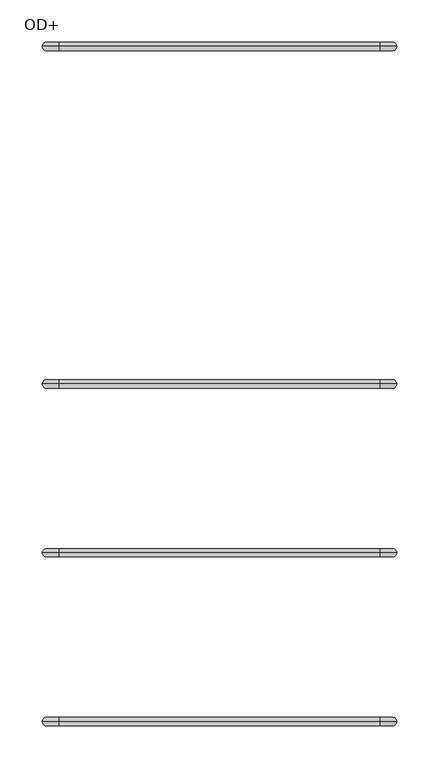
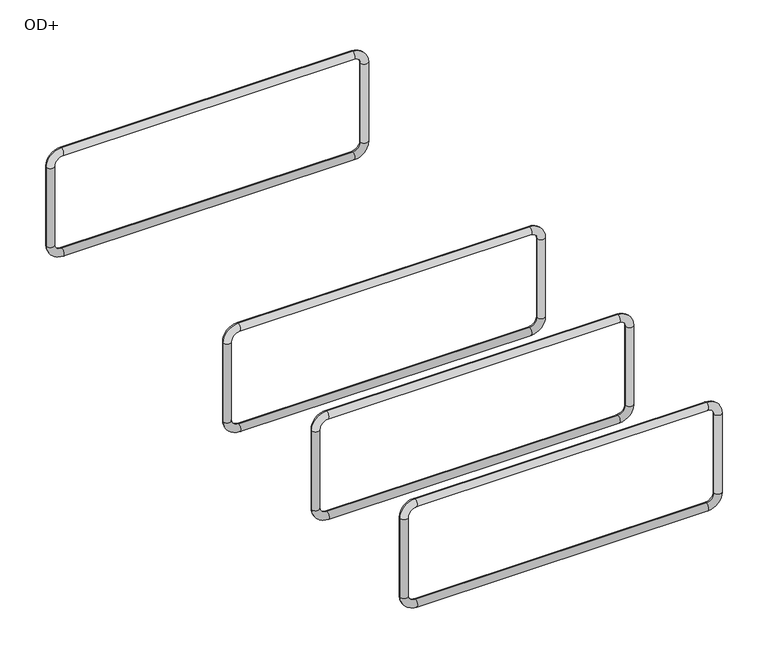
"""IFC4 building model written with IfcOpenShell, lengths in millimetres: fastener geometry, ACINOXplus_Typenreihe_Ux-Ox : OD+."""

from ifc_helpers import new_model, si_unit, point, frame, origin, place, context, project, spatial, circle_curve, ellipse_curve, trimmed, source, transform, mapped, element, save
from ifc_brep_helpers import cylinder_surface, revolved_surface, advanced_brep


def od_3d4dff3b(model_context):
    return source(origin(), model_context, "Body", "AdvancedBrep", [
        advanced_brep(
        [(190.0, 0.0, -35.5), (190.0, 0.0, -25.5), (-190.0, 0.0, -25.5), (-190.0, 0.0, -35.5), (-200.0, 0.0, -45.5), (-210.0, 0.0, -45.5), (-210.0, 0.0, -154.5), (-200.0, 0.0, -154.5), (-190.0, 0.0, -164.5), (-190.0, 0.0, -174.5), (190.0, 0.0, -174.5), (190.0, 0.0, -164.5), (200.0, 0.0, -154.5), (210.0, 0.0, -154.5), (210.0, 0.0, -45.5), (200.0, 0.0, -45.5)],
        [
            (0, 1, circle_curve(frame((190.0, 0.0, -30.5), z_axis=(-1.0, 0.0, 0.0), x_axis=(0.0, 0.0, -1.0)), 5.0)),
            (1, 2),
            (2, 3, circle_curve(frame((-190.0, 0.0, -30.5), z_axis=(1.0, 0.0, 0.0), x_axis=(0.0, 0.0, -1.0)), 5.0)),
            (3, 0),
            (1, 0, circle_curve(frame((190.0, 0.0, -30.5), z_axis=(-1.0, 0.0, 0.0), x_axis=(0.0, 0.0, -1.0)), 5.0)),
            (3, 2, circle_curve(frame((-190.0, 0.0, -30.5), z_axis=(1.0, 0.0, 0.0), x_axis=(0.0, 0.0, -1.0)), 5.0)),
            (4, 3, circle_curve(frame((-190.0, 0.0, -45.5), z_axis=(0.0, 1.0, 0.0), x_axis=(0.0, 0.0, 1.0)), 10.0)),
            (2, 5, circle_curve(frame((-190.0, 0.0, -45.5), z_axis=(0.0, -1.0, 0.0), x_axis=(0.0, 0.0, 1.0)), 20.0)),
            (5, 4, circle_curve(frame((-205.0, 0.0, -45.5), z_axis=(0.0, 0.0, 1.0), x_axis=(1.0, 0.0, 0.0)), 5.0)),
            (4, 5, circle_curve(frame((-205.0, 0.0, -45.5), z_axis=(0.0, 0.0, 1.0), x_axis=(1.0, 0.0, 0.0)), 5.0)),
            (5, 6),
            (6, 7, circle_curve(frame((-205.0, 0.0, -154.5), z_axis=(0.0, 0.0, 1.0), x_axis=(1.0, 0.0, 0.0)), 5.0)),
            (7, 4),
            (7, 6, circle_curve(frame((-205.0, 0.0, -154.5), z_axis=(0.0, 0.0, 1.0), x_axis=(1.0, 0.0, 0.0)), 5.0)),
            (8, 7, circle_curve(frame((-190.0, 0.0, -154.5), z_axis=(0.0, 1.0, 0.0), x_axis=(-1.0, 0.0, 0.0)), 10.0)),
            (6, 9, circle_curve(frame((-190.0, 0.0, -154.5), z_axis=(0.0, -1.0, 0.0), x_axis=(-1.0, 0.0, 0.0)), 20.0)),
            (9, 8, circle_curve(frame((-190.0, 0.0, -169.5), z_axis=(-1.0, 0.0, 0.0), x_axis=(0.0, 0.0, 1.0)), 5.0)),
            (8, 9, circle_curve(frame((-190.0, 0.0, -169.5), z_axis=(-1.0, 0.0, 0.0), x_axis=(0.0, 0.0, 1.0)), 5.0)),
            (9, 10),
            (10, 11, circle_curve(frame((190.0, 0.0, -169.5), z_axis=(-1.0, 0.0, 0.0), x_axis=(0.0, 0.0, 1.0)), 5.0)),
            (11, 8),
            (11, 10, circle_curve(frame((190.0, 0.0, -169.5), z_axis=(-1.0, 0.0, 0.0), x_axis=(0.0, 0.0, 1.0)), 5.0)),
            (12, 11, circle_curve(frame((190.0, 0.0, -154.5), z_axis=(0.0, 1.0, 0.0), x_axis=(0.0, 0.0, -1.0)), 10.0)),
            (10, 13, circle_curve(frame((190.0, 0.0, -154.5), z_axis=(0.0, -1.0, 0.0), x_axis=(0.0, 0.0, -1.0)), 20.0)),
            (13, 12, circle_curve(frame((205.0, 0.0, -154.5), z_axis=(0.0, 0.0, -1.0), x_axis=(-1.0, 0.0, 0.0)), 5.0)),
            (12, 13, circle_curve(frame((205.0, 0.0, -154.5), z_axis=(0.0, 0.0, -1.0), x_axis=(-1.0, 0.0, 0.0)), 5.0)),
            (13, 14),
            (14, 15, circle_curve(frame((205.0, 0.0, -45.5), z_axis=(0.0, 0.0, -1.0), x_axis=(-1.0, 0.0, 0.0)), 5.0)),
            (15, 12),
            (15, 14, circle_curve(frame((205.0, 0.0, -45.5), z_axis=(0.0, 0.0, -1.0), x_axis=(-1.0, 0.0, 0.0)), 5.0)),
            (0, 15, circle_curve(frame((190.0, 0.0, -45.5), z_axis=(0.0, 1.0, 0.0), x_axis=(1.0, 0.0, 0.0)), 10.0)),
            (14, 1, circle_curve(frame((190.0, 0.0, -45.5), z_axis=(0.0, -1.0, 0.0), x_axis=(1.0, 0.0, 0.0)), 20.0)),
        ],
        [
            cylinder_surface(frame((190.0, 0.0, -30.5), z_axis=(1.0, 0.0, 0.0), x_axis=(0.0, 0.0, -1.0)), 5.0),
            revolved_surface(trimmed(ellipse_curve(frame((-190.0, 0.0, -30.5), z_axis=(1.0, 0.0, 0.0), x_axis=(0.0, 0.0, -1.0)), 5.0, 5.0), [point((-190.0, 0.0, -25.5))], [point((-190.0, 0.0, -35.5))], True, "CARTESIAN"), (-190.0, 0.0, -45.5), (0.0, -1.0, 0.0)),
            revolved_surface(trimmed(ellipse_curve(frame((-190.0, 0.0, -30.5), z_axis=(1.0, 0.0, 0.0), x_axis=(0.0, 0.0, -1.0)), 5.0, 5.0), [point((-190.0, 0.0, -35.5))], [point((-190.0, 0.0, -25.5))], True, "CARTESIAN"), (-190.0, 0.0, -45.5), (0.0, -1.0, 0.0)),
            cylinder_surface(frame((-205.0, 0.0, -45.5), z_axis=(0.0, 0.0, 1.0), x_axis=(1.0, 0.0, 0.0)), 5.0),
            revolved_surface(trimmed(ellipse_curve(frame((-205.0, 0.0, -154.5), z_axis=(0.0, 0.0, 1.0), x_axis=(1.0, 0.0, 0.0)), 5.0, 5.0), [point((-210.0, 0.0, -154.5))], [point((-200.0, 0.0, -154.5))], True, "CARTESIAN"), (-190.0, 0.0, -154.5), (0.0, -1.0, 0.0)),
            revolved_surface(trimmed(ellipse_curve(frame((-205.0, 0.0, -154.5), z_axis=(0.0, 0.0, 1.0), x_axis=(1.0, 0.0, 0.0)), 5.0, 5.0), [point((-200.0, 0.0, -154.5))], [point((-210.0, 0.0, -154.5))], True, "CARTESIAN"), (-190.0, 0.0, -154.5), (0.0, -1.0, 0.0)),
            cylinder_surface(frame((-190.0, 0.0, -169.5), z_axis=(-1.0, 0.0, 0.0), x_axis=(0.0, 0.0, 1.0)), 5.0),
            revolved_surface(trimmed(ellipse_curve(frame((190.0, 0.0, -169.5), z_axis=(-1.0, 0.0, 0.0), x_axis=(0.0, 0.0, 1.0)), 5.0, 5.0), [point((190.0, 0.0, -174.5))], [point((190.0, 0.0, -164.5))], True, "CARTESIAN"), (190.0, 0.0, -154.5), (0.0, -1.0, 0.0)),
            revolved_surface(trimmed(ellipse_curve(frame((190.0, 0.0, -169.5), z_axis=(-1.0, 0.0, 0.0), x_axis=(0.0, 0.0, 1.0)), 5.0, 5.0), [point((190.0, 0.0, -164.5))], [point((190.0, 0.0, -174.5))], True, "CARTESIAN"), (190.0, 0.0, -154.5), (0.0, -1.0, 0.0)),
            cylinder_surface(frame((205.0, 0.0, -154.5), z_axis=(0.0, 0.0, -1.0), x_axis=(-1.0, 0.0, 0.0)), 5.0),
            revolved_surface(trimmed(ellipse_curve(frame((205.0, 0.0, -45.5), z_axis=(0.0, 0.0, -1.0), x_axis=(-1.0, 0.0, 0.0)), 5.0, 5.0), [point((210.0, 0.0, -45.5))], [point((200.0, 0.0, -45.5))], True, "CARTESIAN"), (190.0, 0.0, -45.5), (0.0, -1.0, 0.0)),
            revolved_surface(trimmed(ellipse_curve(frame((205.0, 0.0, -45.5), z_axis=(0.0, 0.0, -1.0), x_axis=(-1.0, 0.0, 0.0)), 5.0, 5.0), [point((200.0, 0.0, -45.5))], [point((210.0, 0.0, -45.5))], True, "CARTESIAN"), (190.0, 0.0, -45.5), (0.0, -1.0, 0.0)),
        ],
        [
            (0, [[1, 2, 3, 4]]),
            (0, [[5, -4, 6, -2]]),
            (1, [[7, -3, 8, 9]]),
            (2, [[-8, -6, -7, 10]]),
            (3, [[-9, 11, 12, 13]]),
            (3, [[-10, -13, 14, -11]]),
            (4, [[15, -12, 16, 17]]),
            (5, [[-16, -14, -15, 18]]),
            (6, [[-17, 19, 20, 21]]),
            (6, [[-18, -21, 22, -19]]),
            (7, [[23, -20, 24, 25]]),
            (8, [[-24, -22, -23, 26]]),
            (9, [[-25, 27, 28, 29]]),
            (9, [[-26, -29, 30, -27]]),
            (10, [[31, -28, 32, -1]]),
            (11, [[-32, -30, -31, -5]]),
        ],
    ),
        advanced_brep(
        [(190.0, -200.0, -35.5), (190.0, -200.0, -25.5), (-190.0, -200.0, -25.5), (-190.0, -200.0, -35.5), (-200.0, -200.0, -45.5), (-210.0, -200.0, -45.5), (-210.0, -200.0, -154.5), (-200.0, -200.0, -154.5), (-190.0, -200.0, -164.5), (-190.0, -200.0, -174.5), (190.0, -200.0, -174.5), (190.0, -200.0, -164.5), (200.0, -200.0, -154.5), (210.0, -200.0, -154.5), (210.0, -200.0, -45.5), (200.0, -200.0, -45.5)],
        [
            (0, 1, circle_curve(frame((190.0, -200.0, -30.5), z_axis=(-1.0, 0.0, 0.0), x_axis=(0.0, 0.0, -1.0)), 5.0)),
            (1, 2),
            (2, 3, circle_curve(frame((-190.0, -200.0, -30.5), z_axis=(1.0, 0.0, 0.0), x_axis=(0.0, 0.0, -1.0)), 5.0)),
            (3, 0),
            (1, 0, circle_curve(frame((190.0, -200.0, -30.5), z_axis=(-1.0, 0.0, 0.0), x_axis=(0.0, 0.0, -1.0)), 5.0)),
            (3, 2, circle_curve(frame((-190.0, -200.0, -30.5), z_axis=(1.0, 0.0, 0.0), x_axis=(0.0, 0.0, -1.0)), 5.0)),
            (4, 3, circle_curve(frame((-190.0, -200.0, -45.5), z_axis=(0.0, 1.0, 0.0), x_axis=(0.0, 0.0, 1.0)), 10.0)),
            (2, 5, circle_curve(frame((-190.0, -200.0, -45.5), z_axis=(0.0, -1.0, 0.0), x_axis=(0.0, 0.0, 1.0)), 20.0)),
            (5, 4, circle_curve(frame((-205.0, -200.0, -45.5), z_axis=(0.0, 0.0, 1.0), x_axis=(1.0, 0.0, 0.0)), 5.0)),
            (4, 5, circle_curve(frame((-205.0, -200.0, -45.5), z_axis=(0.0, 0.0, 1.0), x_axis=(1.0, 0.0, 0.0)), 5.0)),
            (5, 6),
            (6, 7, circle_curve(frame((-205.0, -200.0, -154.5), z_axis=(0.0, 0.0, 1.0), x_axis=(1.0, 0.0, 0.0)), 5.0)),
            (7, 4),
            (7, 6, circle_curve(frame((-205.0, -200.0, -154.5), z_axis=(0.0, 0.0, 1.0), x_axis=(1.0, 0.0, 0.0)), 5.0)),
            (8, 7, circle_curve(frame((-190.0, -200.0, -154.5), z_axis=(0.0, 1.0, 0.0), x_axis=(-1.0, 0.0, 0.0)), 10.0)),
            (6, 9, circle_curve(frame((-190.0, -200.0, -154.5), z_axis=(0.0, -1.0, 0.0), x_axis=(-1.0, 0.0, 0.0)), 20.0)),
            (9, 8, circle_curve(frame((-190.0, -200.0, -169.5), z_axis=(-1.0, 0.0, 0.0), x_axis=(0.0, 0.0, 1.0)), 5.0)),
            (8, 9, circle_curve(frame((-190.0, -200.0, -169.5), z_axis=(-1.0, 0.0, 0.0), x_axis=(0.0, 0.0, 1.0)), 5.0)),
            (9, 10),
            (10, 11, circle_curve(frame((190.0, -200.0, -169.5), z_axis=(-1.0, 0.0, 0.0), x_axis=(0.0, 0.0, 1.0)), 5.0)),
            (11, 8),
            (11, 10, circle_curve(frame((190.0, -200.0, -169.5), z_axis=(-1.0, 0.0, 0.0), x_axis=(0.0, 0.0, 1.0)), 5.0)),
            (12, 11, circle_curve(frame((190.0, -200.0, -154.5), z_axis=(0.0, 1.0, 0.0), x_axis=(0.0, 0.0, -1.0)), 10.0)),
            (10, 13, circle_curve(frame((190.0, -200.0, -154.5), z_axis=(0.0, -1.0, 0.0), x_axis=(0.0, 0.0, -1.0)), 20.0)),
            (13, 12, circle_curve(frame((205.0, -200.0, -154.5), z_axis=(0.0, 0.0, -1.0), x_axis=(-1.0, 0.0, 0.0)), 5.0)),
            (12, 13, circle_curve(frame((205.0, -200.0, -154.5), z_axis=(0.0, 0.0, -1.0), x_axis=(-1.0, 0.0, 0.0)), 5.0)),
            (13, 14),
            (14, 15, circle_curve(frame((205.0, -200.0, -45.5), z_axis=(0.0, 0.0, -1.0), x_axis=(-1.0, 0.0, 0.0)), 5.0)),
            (15, 12),
            (15, 14, circle_curve(frame((205.0, -200.0, -45.5), z_axis=(0.0, 0.0, -1.0), x_axis=(-1.0, 0.0, 0.0)), 5.0)),
            (0, 15, circle_curve(frame((190.0, -200.0, -45.5), z_axis=(0.0, 1.0, 0.0), x_axis=(1.0, 0.0, 0.0)), 10.0)),
            (14, 1, circle_curve(frame((190.0, -200.0, -45.5), z_axis=(0.0, -1.0, 0.0), x_axis=(1.0, 0.0, 0.0)), 20.0)),
        ],
        [
            cylinder_surface(frame((190.0, -200.0, -30.5), z_axis=(1.0, 0.0, 0.0), x_axis=(0.0, 0.0, -1.0)), 5.0),
            revolved_surface(trimmed(ellipse_curve(frame((-190.0, -200.0, -30.5), z_axis=(1.0, 0.0, 0.0), x_axis=(0.0, 0.0, -1.0)), 5.0, 5.0), [point((-190.0, -200.0, -25.5))], [point((-190.0, -200.0, -35.5))], True, "CARTESIAN"), (-190.0, -200.0, -45.5), (0.0, -1.0, 0.0)),
            revolved_surface(trimmed(ellipse_curve(frame((-190.0, -200.0, -30.5), z_axis=(1.0, 0.0, 0.0), x_axis=(0.0, 0.0, -1.0)), 5.0, 5.0), [point((-190.0, -200.0, -35.5))], [point((-190.0, -200.0, -25.5))], True, "CARTESIAN"), (-190.0, -200.0, -45.5), (0.0, -1.0, 0.0)),
            cylinder_surface(frame((-205.0, -200.0, -45.5), z_axis=(0.0, 0.0, 1.0), x_axis=(1.0, 0.0, 0.0)), 5.0),
            revolved_surface(trimmed(ellipse_curve(frame((-205.0, -200.0, -154.5), z_axis=(0.0, 0.0, 1.0), x_axis=(1.0, 0.0, 0.0)), 5.0, 5.0), [point((-210.0, -200.0, -154.5))], [point((-200.0, -200.0, -154.5))], True, "CARTESIAN"), (-190.0, -200.0, -154.5), (0.0, -1.0, 0.0)),
            revolved_surface(trimmed(ellipse_curve(frame((-205.0, -200.0, -154.5), z_axis=(0.0, 0.0, 1.0), x_axis=(1.0, 0.0, 0.0)), 5.0, 5.0), [point((-200.0, -200.0, -154.5))], [point((-210.0, -200.0, -154.5))], True, "CARTESIAN"), (-190.0, -200.0, -154.5), (0.0, -1.0, 0.0)),
            cylinder_surface(frame((-190.0, -200.0, -169.5), z_axis=(-1.0, 0.0, 0.0), x_axis=(0.0, 0.0, 1.0)), 5.0),
            revolved_surface(trimmed(ellipse_curve(frame((190.0, -200.0, -169.5), z_axis=(-1.0, 0.0, 0.0), x_axis=(0.0, 0.0, 1.0)), 5.0, 5.0), [point((190.0, -200.0, -174.5))], [point((190.0, -200.0, -164.5))], True, "CARTESIAN"), (190.0, -200.0, -154.5), (0.0, -1.0, 0.0)),
            revolved_surface(trimmed(ellipse_curve(frame((190.0, -200.0, -169.5), z_axis=(-1.0, 0.0, 0.0), x_axis=(0.0, 0.0, 1.0)), 5.0, 5.0), [point((190.0, -200.0, -164.5))], [point((190.0, -200.0, -174.5))], True, "CARTESIAN"), (190.0, -200.0, -154.5), (0.0, -1.0, 0.0)),
            cylinder_surface(frame((205.0, -200.0, -154.5), z_axis=(0.0, 0.0, -1.0), x_axis=(-1.0, 0.0, 0.0)), 5.0),
            revolved_surface(trimmed(ellipse_curve(frame((205.0, -200.0, -45.5), z_axis=(0.0, 0.0, -1.0), x_axis=(-1.0, 0.0, 0.0)), 5.0, 5.0), [point((210.0, -200.0, -45.5))], [point((200.0, -200.0, -45.5))], True, "CARTESIAN"), (190.0, -200.0, -45.5), (0.0, -1.0, 0.0)),
            revolved_surface(trimmed(ellipse_curve(frame((205.0, -200.0, -45.5), z_axis=(0.0, 0.0, -1.0), x_axis=(-1.0, 0.0, 0.0)), 5.0, 5.0), [point((200.0, -200.0, -45.5))], [point((210.0, -200.0, -45.5))], True, "CARTESIAN"), (190.0, -200.0, -45.5), (0.0, -1.0, 0.0)),
        ],
        [
            (0, [[1, 2, 3, 4]]),
            (0, [[5, -4, 6, -2]]),
            (1, [[7, -3, 8, 9]]),
            (2, [[-8, -6, -7, 10]]),
            (3, [[-9, 11, 12, 13]]),
            (3, [[-10, -13, 14, -11]]),
            (4, [[15, -12, 16, 17]]),
            (5, [[-16, -14, -15, 18]]),
            (6, [[-17, 19, 20, 21]]),
            (6, [[-18, -21, 22, -19]]),
            (7, [[23, -20, 24, 25]]),
            (8, [[-24, -22, -23, 26]]),
            (9, [[-25, 27, 28, 29]]),
            (9, [[-26, -29, 30, -27]]),
            (10, [[31, -28, 32, -1]]),
            (11, [[-32, -30, -31, -5]]),
        ],
    ),
        advanced_brep(
        [(190.0, 400.0, -35.5), (190.0, 400.0, -25.5), (-190.0, 400.0, -25.5), (-190.0, 400.0, -35.5), (-200.0, 400.0, -45.5), (-210.0, 400.0, -45.5), (-210.0, 400.0, -154.5), (-200.0, 400.0, -154.5), (-190.0, 400.0, -164.5), (-190.0, 400.0, -174.5), (190.0, 400.0, -174.5), (190.0, 400.0, -164.5), (200.0, 400.0, -154.5), (210.0, 400.0, -154.5), (210.0, 400.0, -45.5), (200.0, 400.0, -45.5)],
        [
            (0, 1, circle_curve(frame((190.0, 400.0, -30.5), z_axis=(-1.0, 0.0, 0.0), x_axis=(0.0, 0.0, -1.0)), 5.0)),
            (1, 2),
            (2, 3, circle_curve(frame((-190.0, 400.0, -30.5), z_axis=(1.0, 0.0, 0.0), x_axis=(0.0, 0.0, -1.0)), 5.0)),
            (3, 0),
            (1, 0, circle_curve(frame((190.0, 400.0, -30.5), z_axis=(-1.0, 0.0, 0.0), x_axis=(0.0, 0.0, -1.0)), 5.0)),
            (3, 2, circle_curve(frame((-190.0, 400.0, -30.5), z_axis=(1.0, 0.0, 0.0), x_axis=(0.0, 0.0, -1.0)), 5.0)),
            (4, 3, circle_curve(frame((-190.0, 400.0, -45.5), z_axis=(0.0, 1.0, 0.0), x_axis=(0.0, 0.0, 1.0)), 10.0)),
            (2, 5, circle_curve(frame((-190.0, 400.0, -45.5), z_axis=(0.0, -1.0, 0.0), x_axis=(0.0, 0.0, 1.0)), 20.0)),
            (5, 4, circle_curve(frame((-205.0, 400.0, -45.5), z_axis=(0.0, 0.0, 1.0), x_axis=(1.0, 0.0, 0.0)), 5.0)),
            (4, 5, circle_curve(frame((-205.0, 400.0, -45.5), z_axis=(0.0, 0.0, 1.0), x_axis=(1.0, 0.0, 0.0)), 5.0)),
            (5, 6),
            (6, 7, circle_curve(frame((-205.0, 400.0, -154.5), z_axis=(0.0, 0.0, 1.0), x_axis=(1.0, 0.0, 0.0)), 5.0)),
            (7, 4),
            (7, 6, circle_curve(frame((-205.0, 400.0, -154.5), z_axis=(0.0, 0.0, 1.0), x_axis=(1.0, 0.0, 0.0)), 5.0)),
            (8, 7, circle_curve(frame((-190.0, 400.0, -154.5), z_axis=(0.0, 1.0, 0.0), x_axis=(-1.0, 0.0, 0.0)), 10.0)),
            (6, 9, circle_curve(frame((-190.0, 400.0, -154.5), z_axis=(0.0, -1.0, 0.0), x_axis=(-1.0, 0.0, 0.0)), 20.0)),
            (9, 8, circle_curve(frame((-190.0, 400.0, -169.5), z_axis=(-1.0, 0.0, 0.0), x_axis=(0.0, 0.0, 1.0)), 5.0)),
            (8, 9, circle_curve(frame((-190.0, 400.0, -169.5), z_axis=(-1.0, 0.0, 0.0), x_axis=(0.0, 0.0, 1.0)), 5.0)),
            (9, 10),
            (10, 11, circle_curve(frame((190.0, 400.0, -169.5), z_axis=(-1.0, 0.0, 0.0), x_axis=(0.0, 0.0, 1.0)), 5.0)),
            (11, 8),
            (11, 10, circle_curve(frame((190.0, 400.0, -169.5), z_axis=(-1.0, 0.0, 0.0), x_axis=(0.0, 0.0, 1.0)), 5.0)),
            (12, 11, circle_curve(frame((190.0, 400.0, -154.5), z_axis=(0.0, 1.0, 0.0), x_axis=(0.0, 0.0, -1.0)), 10.0)),
            (10, 13, circle_curve(frame((190.0, 400.0, -154.5), z_axis=(0.0, -1.0, 0.0), x_axis=(0.0, 0.0, -1.0)), 20.0)),
            (13, 12, circle_curve(frame((205.0, 400.0, -154.5), z_axis=(0.0, 0.0, -1.0), x_axis=(-1.0, 0.0, 0.0)), 5.0)),
            (12, 13, circle_curve(frame((205.0, 400.0, -154.5), z_axis=(0.0, 0.0, -1.0), x_axis=(-1.0, 0.0, 0.0)), 5.0)),
            (13, 14),
            (14, 15, circle_curve(frame((205.0, 400.0, -45.5), z_axis=(0.0, 0.0, -1.0), x_axis=(-1.0, 0.0, 0.0)), 5.0)),
            (15, 12),
            (15, 14, circle_curve(frame((205.0, 400.0, -45.5), z_axis=(0.0, 0.0, -1.0), x_axis=(-1.0, 0.0, 0.0)), 5.0)),
            (0, 15, circle_curve(frame((190.0, 400.0, -45.5), z_axis=(0.0, 1.0, 0.0), x_axis=(1.0, 0.0, 0.0)), 10.0)),
            (14, 1, circle_curve(frame((190.0, 400.0, -45.5), z_axis=(0.0, -1.0, 0.0), x_axis=(1.0, 0.0, 0.0)), 20.0)),
        ],
        [
            cylinder_surface(frame((190.0, 400.0, -30.5), z_axis=(1.0, 0.0, 0.0), x_axis=(0.0, 0.0, -1.0)), 5.0),
            revolved_surface(trimmed(ellipse_curve(frame((-190.0, 400.0, -30.5), z_axis=(1.0, 0.0, 0.0), x_axis=(0.0, 0.0, -1.0)), 5.0, 5.0), [point((-190.0, 400.0, -25.5))], [point((-190.0, 400.0, -35.5))], True, "CARTESIAN"), (-190.0, 400.0, -45.5), (0.0, -1.0, 0.0)),
            revolved_surface(trimmed(ellipse_curve(frame((-190.0, 400.0, -30.5), z_axis=(1.0, 0.0, 0.0), x_axis=(0.0, 0.0, -1.0)), 5.0, 5.0), [point((-190.0, 400.0, -35.5))], [point((-190.0, 400.0, -25.5))], True, "CARTESIAN"), (-190.0, 400.0, -45.5), (0.0, -1.0, 0.0)),
            cylinder_surface(frame((-205.0, 400.0, -45.5), z_axis=(0.0, 0.0, 1.0), x_axis=(1.0, 0.0, 0.0)), 5.0),
            revolved_surface(trimmed(ellipse_curve(frame((-205.0, 400.0, -154.5), z_axis=(0.0, 0.0, 1.0), x_axis=(1.0, 0.0, 0.0)), 5.0, 5.0), [point((-210.0, 400.0, -154.5))], [point((-200.0, 400.0, -154.5))], True, "CARTESIAN"), (-190.0, 400.0, -154.5), (0.0, -1.0, 0.0)),
            revolved_surface(trimmed(ellipse_curve(frame((-205.0, 400.0, -154.5), z_axis=(0.0, 0.0, 1.0), x_axis=(1.0, 0.0, 0.0)), 5.0, 5.0), [point((-200.0, 400.0, -154.5))], [point((-210.0, 400.0, -154.5))], True, "CARTESIAN"), (-190.0, 400.0, -154.5), (0.0, -1.0, 0.0)),
            cylinder_surface(frame((-190.0, 400.0, -169.5), z_axis=(-1.0, 0.0, 0.0), x_axis=(0.0, 0.0, 1.0)), 5.0),
            revolved_surface(trimmed(ellipse_curve(frame((190.0, 400.0, -169.5), z_axis=(-1.0, 0.0, 0.0), x_axis=(0.0, 0.0, 1.0)), 5.0, 5.0), [point((190.0, 400.0, -174.5))], [point((190.0, 400.0, -164.5))], True, "CARTESIAN"), (190.0, 400.0, -154.5), (0.0, -1.0, 0.0)),
            revolved_surface(trimmed(ellipse_curve(frame((190.0, 400.0, -169.5), z_axis=(-1.0, 0.0, 0.0), x_axis=(0.0, 0.0, 1.0)), 5.0, 5.0), [point((190.0, 400.0, -164.5))], [point((190.0, 400.0, -174.5))], True, "CARTESIAN"), (190.0, 400.0, -154.5), (0.0, -1.0, 0.0)),
            cylinder_surface(frame((205.0, 400.0, -154.5), z_axis=(0.0, 0.0, -1.0), x_axis=(-1.0, 0.0, 0.0)), 5.0),
            revolved_surface(trimmed(ellipse_curve(frame((205.0, 400.0, -45.5), z_axis=(0.0, 0.0, -1.0), x_axis=(-1.0, 0.0, 0.0)), 5.0, 5.0), [point((210.0, 400.0, -45.5))], [point((200.0, 400.0, -45.5))], True, "CARTESIAN"), (190.0, 400.0, -45.5), (0.0, -1.0, 0.0)),
            revolved_surface(trimmed(ellipse_curve(frame((205.0, 400.0, -45.5), z_axis=(0.0, 0.0, -1.0), x_axis=(-1.0, 0.0, 0.0)), 5.0, 5.0), [point((200.0, 400.0, -45.5))], [point((210.0, 400.0, -45.5))], True, "CARTESIAN"), (190.0, 400.0, -45.5), (0.0, -1.0, 0.0)),
        ],
        [
            (0, [[1, 2, 3, 4]]),
            (0, [[5, -4, 6, -2]]),
            (1, [[7, -3, 8, 9]]),
            (2, [[-8, -6, -7, 10]]),
            (3, [[-9, 11, 12, 13]]),
            (3, [[-10, -13, 14, -11]]),
            (4, [[15, -12, 16, 17]]),
            (5, [[-16, -14, -15, 18]]),
            (6, [[-17, 19, 20, 21]]),
            (6, [[-18, -21, 22, -19]]),
            (7, [[23, -20, 24, 25]]),
            (8, [[-24, -22, -23, 26]]),
            (9, [[-25, 27, 28, 29]]),
            (9, [[-26, -29, 30, -27]]),
            (10, [[31, -28, 32, -1]]),
            (11, [[-32, -30, -31, -5]]),
        ],
    ),
        advanced_brep(
        [(190.0, -400.0, -35.5), (190.0, -400.0, -25.5), (-190.0, -400.0, -25.5), (-190.0, -400.0, -35.5), (-200.0, -400.0, -45.5), (-210.0, -400.0, -45.5), (-210.0, -400.0, -154.5), (-200.0, -400.0, -154.5), (-190.0, -400.0, -164.5), (-190.0, -400.0, -174.5), (190.0, -400.0, -174.5), (190.0, -400.0, -164.5), (200.0, -400.0, -154.5), (210.0, -400.0, -154.5), (210.0, -400.0, -45.5), (200.0, -400.0, -45.5)],
        [
            (0, 1, circle_curve(frame((190.0, -400.0, -30.5), z_axis=(-1.0, 0.0, 0.0), x_axis=(0.0, 0.0, -1.0)), 5.0)),
            (1, 2),
            (2, 3, circle_curve(frame((-190.0, -400.0, -30.5), z_axis=(1.0, 0.0, 0.0), x_axis=(0.0, 0.0, -1.0)), 5.0)),
            (3, 0),
            (1, 0, circle_curve(frame((190.0, -400.0, -30.5), z_axis=(-1.0, 0.0, 0.0), x_axis=(0.0, 0.0, -1.0)), 5.0)),
            (3, 2, circle_curve(frame((-190.0, -400.0, -30.5), z_axis=(1.0, 0.0, 0.0), x_axis=(0.0, 0.0, -1.0)), 5.0)),
            (4, 3, circle_curve(frame((-190.0, -400.0, -45.5), z_axis=(0.0, 1.0, 0.0), x_axis=(0.0, 0.0, 1.0)), 10.0)),
            (2, 5, circle_curve(frame((-190.0, -400.0, -45.5), z_axis=(0.0, -1.0, 0.0), x_axis=(0.0, 0.0, 1.0)), 20.0)),
            (5, 4, circle_curve(frame((-205.0, -400.0, -45.5), z_axis=(0.0, 0.0, 1.0), x_axis=(1.0, 0.0, 0.0)), 5.0)),
            (4, 5, circle_curve(frame((-205.0, -400.0, -45.5), z_axis=(0.0, 0.0, 1.0), x_axis=(1.0, 0.0, 0.0)), 5.0)),
            (5, 6),
            (6, 7, circle_curve(frame((-205.0, -400.0, -154.5), z_axis=(0.0, 0.0, 1.0), x_axis=(1.0, 0.0, 0.0)), 5.0)),
            (7, 4),
            (7, 6, circle_curve(frame((-205.0, -400.0, -154.5), z_axis=(0.0, 0.0, 1.0), x_axis=(1.0, 0.0, 0.0)), 5.0)),
            (8, 7, circle_curve(frame((-190.0, -400.0, -154.5), z_axis=(0.0, 1.0, 0.0), x_axis=(-1.0, 0.0, 0.0)), 10.0)),
            (6, 9, circle_curve(frame((-190.0, -400.0, -154.5), z_axis=(0.0, -1.0, 0.0), x_axis=(-1.0, 0.0, 0.0)), 20.0)),
            (9, 8, circle_curve(frame((-190.0, -400.0, -169.5), z_axis=(-1.0, 0.0, 0.0), x_axis=(0.0, 0.0, 1.0)), 5.0)),
            (8, 9, circle_curve(frame((-190.0, -400.0, -169.5), z_axis=(-1.0, 0.0, 0.0), x_axis=(0.0, 0.0, 1.0)), 5.0)),
            (9, 10),
            (10, 11, circle_curve(frame((190.0, -400.0, -169.5), z_axis=(-1.0, 0.0, 0.0), x_axis=(0.0, 0.0, 1.0)), 5.0)),
            (11, 8),
            (11, 10, circle_curve(frame((190.0, -400.0, -169.5), z_axis=(-1.0, 0.0, 0.0), x_axis=(0.0, 0.0, 1.0)), 5.0)),
            (12, 11, circle_curve(frame((190.0, -400.0, -154.5), z_axis=(0.0, 1.0, 0.0), x_axis=(0.0, 0.0, -1.0)), 10.0)),
            (10, 13, circle_curve(frame((190.0, -400.0, -154.5), z_axis=(0.0, -1.0, 0.0), x_axis=(0.0, 0.0, -1.0)), 20.0)),
            (13, 12, circle_curve(frame((205.0, -400.0, -154.5), z_axis=(0.0, 0.0, -1.0), x_axis=(-1.0, 0.0, 0.0)), 5.0)),
            (12, 13, circle_curve(frame((205.0, -400.0, -154.5), z_axis=(0.0, 0.0, -1.0), x_axis=(-1.0, 0.0, 0.0)), 5.0)),
            (13, 14),
            (14, 15, circle_curve(frame((205.0, -400.0, -45.5), z_axis=(0.0, 0.0, -1.0), x_axis=(-1.0, 0.0, 0.0)), 5.0)),
            (15, 12),
            (15, 14, circle_curve(frame((205.0, -400.0, -45.5), z_axis=(0.0, 0.0, -1.0), x_axis=(-1.0, 0.0, 0.0)), 5.0)),
            (0, 15, circle_curve(frame((190.0, -400.0, -45.5), z_axis=(0.0, 1.0, 0.0), x_axis=(1.0, 0.0, 0.0)), 10.0)),
            (14, 1, circle_curve(frame((190.0, -400.0, -45.5), z_axis=(0.0, -1.0, 0.0), x_axis=(1.0, 0.0, 0.0)), 20.0)),
        ],
        [
            cylinder_surface(frame((190.0, -400.0, -30.5), z_axis=(1.0, 0.0, 0.0), x_axis=(0.0, 0.0, -1.0)), 5.0),
            revolved_surface(trimmed(ellipse_curve(frame((-190.0, -400.0, -30.5), z_axis=(1.0, 0.0, 0.0), x_axis=(0.0, 0.0, -1.0)), 5.0, 5.0), [point((-190.0, -400.0, -25.5))], [point((-190.0, -400.0, -35.5))], True, "CARTESIAN"), (-190.0, -400.0, -45.5), (0.0, -1.0, 0.0)),
            revolved_surface(trimmed(ellipse_curve(frame((-190.0, -400.0, -30.5), z_axis=(1.0, 0.0, 0.0), x_axis=(0.0, 0.0, -1.0)), 5.0, 5.0), [point((-190.0, -400.0, -35.5))], [point((-190.0, -400.0, -25.5))], True, "CARTESIAN"), (-190.0, -400.0, -45.5), (0.0, -1.0, 0.0)),
            cylinder_surface(frame((-205.0, -400.0, -45.5), z_axis=(0.0, 0.0, 1.0), x_axis=(1.0, 0.0, 0.0)), 5.0),
            revolved_surface(trimmed(ellipse_curve(frame((-205.0, -400.0, -154.5), z_axis=(0.0, 0.0, 1.0), x_axis=(1.0, 0.0, 0.0)), 5.0, 5.0), [point((-210.0, -400.0, -154.5))], [point((-200.0, -400.0, -154.5))], True, "CARTESIAN"), (-190.0, -400.0, -154.5), (0.0, -1.0, 0.0)),
            revolved_surface(trimmed(ellipse_curve(frame((-205.0, -400.0, -154.5), z_axis=(0.0, 0.0, 1.0), x_axis=(1.0, 0.0, 0.0)), 5.0, 5.0), [point((-200.0, -400.0, -154.5))], [point((-210.0, -400.0, -154.5))], True, "CARTESIAN"), (-190.0, -400.0, -154.5), (0.0, -1.0, 0.0)),
            cylinder_surface(frame((-190.0, -400.0, -169.5), z_axis=(-1.0, 0.0, 0.0), x_axis=(0.0, 0.0, 1.0)), 5.0),
            revolved_surface(trimmed(ellipse_curve(frame((190.0, -400.0, -169.5), z_axis=(-1.0, 0.0, 0.0), x_axis=(0.0, 0.0, 1.0)), 5.0, 5.0), [point((190.0, -400.0, -174.5))], [point((190.0, -400.0, -164.5))], True, "CARTESIAN"), (190.0, -400.0, -154.5), (0.0, -1.0, 0.0)),
            revolved_surface(trimmed(ellipse_curve(frame((190.0, -400.0, -169.5), z_axis=(-1.0, 0.0, 0.0), x_axis=(0.0, 0.0, 1.0)), 5.0, 5.0), [point((190.0, -400.0, -164.5))], [point((190.0, -400.0, -174.5))], True, "CARTESIAN"), (190.0, -400.0, -154.5), (0.0, -1.0, 0.0)),
            cylinder_surface(frame((205.0, -400.0, -154.5), z_axis=(0.0, 0.0, -1.0), x_axis=(-1.0, 0.0, 0.0)), 5.0),
            revolved_surface(trimmed(ellipse_curve(frame((205.0, -400.0, -45.5), z_axis=(0.0, 0.0, -1.0), x_axis=(-1.0, 0.0, 0.0)), 5.0, 5.0), [point((210.0, -400.0, -45.5))], [point((200.0, -400.0, -45.5))], True, "CARTESIAN"), (190.0, -400.0, -45.5), (0.0, -1.0, 0.0)),
            revolved_surface(trimmed(ellipse_curve(frame((205.0, -400.0, -45.5), z_axis=(0.0, 0.0, -1.0), x_axis=(-1.0, 0.0, 0.0)), 5.0, 5.0), [point((200.0, -400.0, -45.5))], [point((210.0, -400.0, -45.5))], True, "CARTESIAN"), (190.0, -400.0, -45.5), (0.0, -1.0, 0.0)),
        ],
        [
            (0, [[1, 2, 3, 4]]),
            (0, [[5, -4, 6, -2]]),
            (1, [[7, -3, 8, 9]]),
            (2, [[-8, -6, -7, 10]]),
            (3, [[-9, 11, 12, 13]]),
            (3, [[-10, -13, 14, -11]]),
            (4, [[15, -12, 16, 17]]),
            (5, [[-16, -14, -15, 18]]),
            (6, [[-17, 19, 20, 21]]),
            (6, [[-18, -21, 22, -19]]),
            (7, [[23, -20, 24, 25]]),
            (8, [[-24, -22, -23, 26]]),
            (9, [[-25, 27, 28, 29]]),
            (9, [[-26, -29, 30, -27]]),
            (10, [[31, -28, 32, -1]]),
            (11, [[-32, -30, -31, -5]]),
        ],
    ),
    ])


if __name__ == "__main__":
    model = new_model("IFC4")
    model_context = context("Model", 3, world=origin())
    ifc_project = project(units=[si_unit("LENGTHUNIT", "METRE", prefix="MILLI")], contexts=[model_context])
    site = spatial("IfcSite", under=ifc_project)
    building = spatial("IfcBuilding", under=site)
    placement = place(None, origin())
    od_shape = od_3d4dff3b(model_context)
    element("IfcFastener", 1, ObjectType="ACINOXplus_Typenreihe_Ux-Ox : OD+", at=placement, inside=building, context=model_context, shape_type="MappedRepresentation", body=[
        mapped(od_shape, transform((0.0, 0.0, 0.0), x_axis=(1.0, 0.0, 0.0), y_axis=(0.0, 1.0, 0.0), z_axis=(0.0, 0.0, 1.0))),
    ])
    save(model, "model.ifc")
